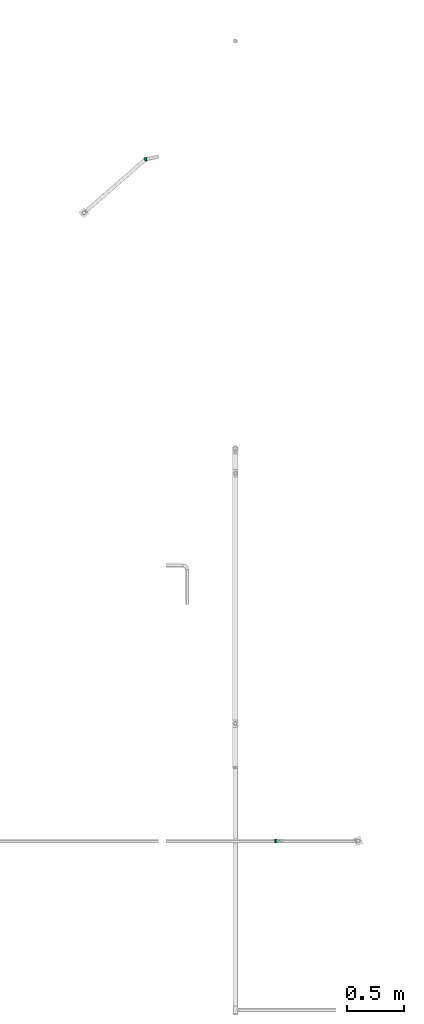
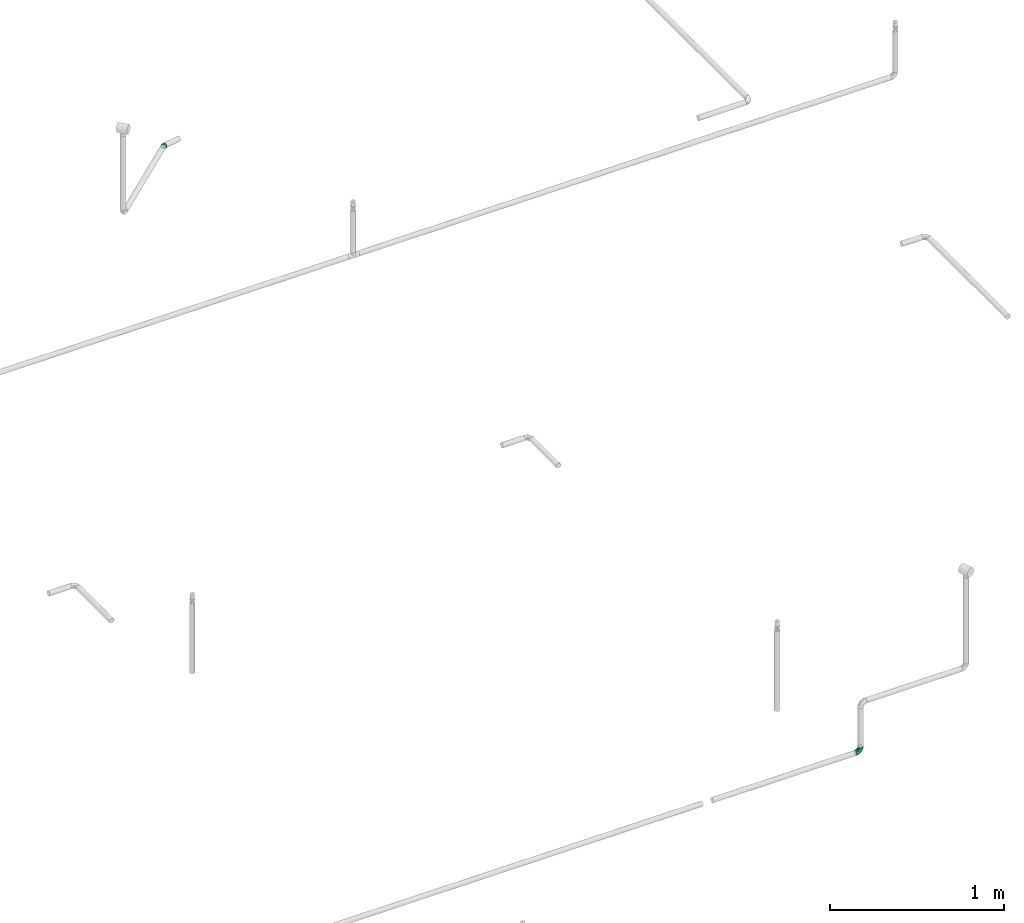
# One storey, part 62 of 63: 2 flow fittings.
"""IFC2X3 building model written with IfcOpenShell, lengths in millimetres."""

import ifcopenshell
import ifcopenshell.guid

model = None  # the IFC model being written
_history = None  # IfcOwnerHistory: only IFC2X3 demands one
_inside = {}  # id of a spatial element -> (the spatial element, [elements in it])
_under = {}  # id of a project, library or spatial element -> (it, [spatial elements below it])
_declared = {}  # id of a project -> (the project, [libraries it declares])
_typed = {}  # id of a type object -> (the type object, [elements of that type])
_made_of = {}  # id of a material, layer set ... -> (it, [elements and type objects made of it])


def new_model(schema):
    """Start an empty IFC model of exactly this schema.

    Asked for "IFC4X3", IfcOpenShell would pick the latest addendum, in which some entities
    have other attributes; the version numbers below select the first issue.
    IFC2X3 requires an IfcOwnerHistory on every rooted entity: one is made here for all.
    """
    global model, _history
    if schema == "IFC4X3":
        model = ifcopenshell.file(schema_version=(4, 3, 0, 0))
    else:
        model = ifcopenshell.file(schema=schema)
    _inside.clear()
    _under.clear()
    _declared.clear()
    _typed.clear()
    _made_of.clear()
    _history = None
    if model.schema == "IFC2X3":
        org = make("IfcOrganization", Name="unknown")
        user = make(
            "IfcPersonAndOrganization",
            ThePerson=make("IfcPerson", FamilyName="unknown"),
            TheOrganization=org,
        )
        app = make(
            "IfcApplication",
            ApplicationDeveloper=org,
            Version="unknown",
            ApplicationFullName="unknown",
            ApplicationIdentifier="unknown",
        )
        _history = make(
            "IfcOwnerHistory",
            OwningUser=user,
            OwningApplication=app,
            ChangeAction="ADDED",
            CreationDate=0,
        )
    return model


def make(cls, **values):
    """One entity of the class cls with the attributes given. An attribute that is None is left unset."""
    return model.create_entity(
        cls, **{name: value for name, value in values.items() if value is not None}
    )


def entity(cls, *values):
    """Any entity or typed value of the class cls, its attributes in the order of the schema. None: left unset."""
    e = model.create_entity(cls)
    for i, value in enumerate(values):
        if value is not None:
            e[i] = value
    return e


def rooted(cls, **values):
    """An entity with a GlobalId (a new one), such as an element, a storey or a relation."""
    return make(cls, GlobalId=ifcopenshell.guid.new(), OwnerHistory=_history, **values)


def si_unit(unit_type, name, prefix=None):
    """IfcSIUnit, for example si_unit("LENGTHUNIT", "METRE", prefix="MILLI")."""
    return make("IfcSIUnit", UnitType=unit_type, Prefix=prefix, Name=name)


def converted_unit(unit_type, name, factor, base, dimensions=None, offset=None):
    """IfcConversionBasedUnit, such as the inch: factor (a typed value) times the base unit."""
    return make(
        "IfcConversionBasedUnit"
        if offset is None
        else "IfcConversionBasedUnitWithOffset",
        ConversionOffset=offset,
        Dimensions=None
        if dimensions is None
        else entity("IfcDimensionalExponents", *dimensions),
        UnitType=unit_type,
        Name=name,
        ConversionFactor=make(
            "IfcMeasureWithUnit", ValueComponent=factor, UnitComponent=base
        ),
    )


def derived_unit(unit_type, elements):
    """IfcDerivedUnit: a product of units, each with its exponent."""
    return make(
        "IfcDerivedUnit",
        Elements=[
            make("IfcDerivedUnitElement", Unit=unit, Exponent=power)
            for unit, power in elements
        ],
        UnitType=unit_type,
    )


def assignment(units):
    """IfcUnitAssignment: the units of a project."""
    return None if units is None else make("IfcUnitAssignment", Units=units)


def point(xyz):
    """IfcCartesianPoint."""
    return None if xyz is None else make("IfcCartesianPoint", Coordinates=xyz)


def direction(xyz):
    """IfcDirection."""
    return None if xyz is None else make("IfcDirection", DirectionRatios=xyz)


def frame(location, z_axis=None, x_axis=None):
    """IfcAxis2Placement3D, a coordinate frame: its origin and axes. An axis left out is left unset."""
    return make(
        "IfcAxis2Placement3D",
        Location=point(location),
        Axis=direction(z_axis),
        RefDirection=direction(x_axis),
    )


def origin_with_axes():
    """The frame at (0, 0, 0) with the z axis (0, 0, 1) and the x axis (1, 0, 0) written out."""
    return frame((0.0, 0.0, 0.0), z_axis=(0.0, 0.0, 1.0), x_axis=(1.0, 0.0, 0.0))


def place(relative_to, where):
    """IfcLocalPlacement: puts the frame where relative to a parent placement (None: the world)."""
    return make(
        "IfcLocalPlacement", PlacementRelTo=relative_to, RelativePlacement=where
    )


def context(
    kind, dimensions, precision=None, world=None, true_north=None, identifier=None
):
    """IfcGeometricRepresentationContext, for example the 3D "Model" context."""
    return make(
        "IfcGeometricRepresentationContext",
        ContextIdentifier=identifier,
        ContextType=kind,
        CoordinateSpaceDimension=dimensions,
        Precision=precision,
        WorldCoordinateSystem=world,
        TrueNorth=true_north,
    )


def subcontext(parent, identifier, kind, view, scale=None):
    """IfcGeometricRepresentationSubContext, for example "Body" below "Model"."""
    return make(
        "IfcGeometricRepresentationSubContext",
        ContextIdentifier=identifier,
        ContextType=kind,
        ParentContext=parent,
        TargetScale=scale,
        TargetView=view,
    )


def project(units=None, contexts=None):
    """IfcProject with its units and contexts."""
    return rooted(
        "IfcProject",
        Name="project",
        RepresentationContexts=contexts,
        UnitsInContext=assignment(units),
    )


def spatial(cls, under=None, at=None, **own):
    """A site, building, storey or space (cls), placed at a placement, below another one or the project."""
    s = rooted(cls, ObjectPlacement=at, **own)
    if under is not None:
        _under.setdefault(under.id(), (under, []))[1].append(s)
    return s


def faces_of(points, faces, orient=None, outer=None):
    """IfcFace entities. A face is a list of loops; a loop is a list of indices into points, from 0.

    orient and outer hold one flag for each loop. By default every Orientation is true, the
    first loop of a face is its IfcFaceOuterBound and the others are IfcFaceBound.
    """
    made = []
    for i, loops in enumerate(faces):
        bounds = []
        for j, loop in enumerate(loops):
            is_outer = j == 0 if outer is None else outer[i][j]
            bounds.append(
                make(
                    "IfcFaceOuterBound" if is_outer else "IfcFaceBound",
                    Bound=make("IfcPolyLoop", Polygon=[points[k] for k in loop]),
                    Orientation=True if orient is None else orient[i][j],
                )
            )
        made.append(make("IfcFace", Bounds=bounds))
    return made


def open_shell(faces, orient=None, outer=None):
    """The faces of one IfcOpenShell. surface_model builds it on its shared points."""
    return ("IfcOpenShell", faces, orient, outer)


def surface_model(cls, points, shells):
    """IfcFaceBasedSurfaceModel or IfcShellBasedSurfaceModel (cls): surfaces that need not close."""
    shared = [point(p) for p in points]
    made = [make(c, CfsFaces=faces_of(shared, fs, o, b)) for c, fs, o, b in shells]
    if cls == "IfcFaceBasedSurfaceModel":
        return make(cls, FbsmFaces=made)
    return make(cls, SbsmBoundary=made)


def shape(context_of_items, identifier, shape_type, items):
    """IfcShapeRepresentation: the items that make up one representation, for example the "Body"."""
    return make(
        "IfcShapeRepresentation",
        ContextOfItems=context_of_items,
        RepresentationIdentifier=identifier,
        RepresentationType=shape_type,
        Items=items,
    )


def source(mapping_origin, context_of_items, identifier, shape_type, items):
    """IfcRepresentationMap: a shape defined once, which mapped items show again and again."""
    return make(
        "IfcRepresentationMap",
        MappingOrigin=mapping_origin,
        MappedRepresentation=shape(context_of_items, identifier, shape_type, items),
    )


def transform(
    local_origin,
    x_axis=None,
    y_axis=None,
    z_axis=None,
    scale=None,
    scale2=None,
    scale3=None,
    uniform=True,
):
    """IfcCartesianTransformationOperator3D, or its non-uniform kind. x_axis, y_axis, z_axis: its Axis1, 2, 3."""
    if uniform:
        return make(
            "IfcCartesianTransformationOperator3D",
            Axis1=direction(x_axis),
            Axis2=direction(y_axis),
            LocalOrigin=point(local_origin),
            Scale=scale,
            Axis3=direction(z_axis),
        )
    return make(
        "IfcCartesianTransformationOperator3DnonUniform",
        Axis1=direction(x_axis),
        Axis2=direction(y_axis),
        LocalOrigin=point(local_origin),
        Scale=scale,
        Axis3=direction(z_axis),
        Scale2=scale2,
        Scale3=scale3,
    )


def mapped(mapping_source, mapping_target):
    """IfcMappedItem: shows the shape of a source again, moved by a transform."""
    return make(
        "IfcMappedItem", MappingSource=mapping_source, MappingTarget=mapping_target
    )


def made_of(thing, what):
    """Note that an element or type object is made of a material, layer set ...; save() writes the relation."""
    if what is not None:
        _made_of.setdefault(what.id(), (what, []))[1].append(thing)
    return thing


def type_object(cls, material=None, **own):
    """A type object (cls), such as IfcWallType, which elements share."""
    return made_of(rooted(cls, **own), material)


def element(
    cls,
    number,
    at=None,
    inside=None,
    cuts=None,
    type_object=None,
    material=None,
    context=None,
    identifier="Body",
    shape_type=None,
    held_by="IfcProductDefinitionShape",
    body=None,
    shapes=None,
    **own,
):
    """One element of the class cls, such as IfcWall. Its Tag is "e" and its number.

    at: its placement. inside: the storey or other place that contains it. cuts: it is an
    opening in that element (IfcRelVoidsElement). A single representation is given by context,
    identifier, shape_type and body (its items); several are given by shapes. held_by: the class
    of the entity that holds the representations. save() writes the other relations.
    """
    e = rooted(cls, Tag="e%d" % number, ObjectPlacement=at, **own)
    if body is not None:
        shapes = [shape(context, identifier, shape_type, body)]
    if shapes is not None:
        e.Representation = make(held_by, Representations=shapes)
    if inside is not None:
        _inside.setdefault(inside.id(), (inside, []))[1].append(e)
    if cuts is not None:
        rooted(
            "IfcRelVoidsElement", RelatingBuildingElement=cuts, RelatedOpeningElement=e
        )
    if type_object is not None:
        _typed.setdefault(type_object.id(), (type_object, []))[1].append(e)
    return made_of(e, material)


def aggregate(whole, parts):
    """IfcRelAggregates: a whole, such as a stair, and the parts it consists of."""
    return rooted("IfcRelAggregates", RelatingObject=whole, RelatedObjects=parts)


def save(model, path):
    """Write the relations noted so far, then the file.

    IfcRelAggregates (storeys below a building ...), IfcRelContainedInSpatialStructure (elements
    in a storey), IfcRelDefinesByType, IfcRelAssociatesMaterial and IfcRelDeclares: one each for
    every whole, place, type object, material and project.
    """
    for whole, parts in _under.values():
        aggregate(whole, parts)
    for where, things in _inside.values():
        rooted(
            "IfcRelContainedInSpatialStructure",
            RelatedElements=things,
            RelatingStructure=where,
        )
    for kind, things in _typed.values():
        rooted("IfcRelDefinesByType", RelatedObjects=things, RelatingType=kind)
    for what, things in _made_of.values():
        rooted("IfcRelAssociatesMaterial", RelatedObjects=things, RelatingMaterial=what)
    for by, libraries in _declared.values():
        rooted("IfcRelDeclares", RelatingContext=by, RelatedDefinitions=libraries)
    model.write(path)


model = new_model("IFC2X3")

# Units and contexts
model_context = context("Model", 3, precision=0.01, world=frame((0.0, 4.29681676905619e-09, 0.0)), true_north=direction((4.01073788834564e-13, 1.0)))
plan_context = context("Plan", 3, precision=0.01, world=frame((0.0, 4.29681676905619e-09, 0.0)), true_north=direction((4.01073788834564e-13, 1.0)))
body_context = subcontext(model_context, "Body", "Model", "MODEL_VIEW")
ifc_project = project(units=[converted_unit("PLANEANGLEUNIT", "DEGREE", entity("IfcPositiveLengthMeasure", 0.0174532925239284), si_unit("PLANEANGLEUNIT", "RADIAN"), dimensions=[0, 0, 0, 0, 0, 0, 0]), si_unit("AREAUNIT", "SQUARE_METRE"), si_unit("LENGTHUNIT", "METRE", prefix="MILLI"), si_unit("MASSUNIT", "GRAM", prefix="KILO"), si_unit("POWERUNIT", "WATT"), si_unit("PRESSUREUNIT", "PASCAL", prefix="KILO"), si_unit("FORCEUNIT", "NEWTON", prefix="KILO"), si_unit("ELECTRICVOLTAGEUNIT", "VOLT"), si_unit("ELECTRICCURRENTUNIT", "AMPERE"), si_unit("THERMODYNAMICTEMPERATUREUNIT", "DEGREE_CELSIUS"), si_unit("TIMEUNIT", "SECOND"), si_unit("VOLUMEUNIT", "CUBIC_METRE"), derived_unit("LINEARVELOCITYUNIT", [(si_unit("LENGTHUNIT", "METRE"), 1), (si_unit("TIMEUNIT", "SECOND"), -1)]), derived_unit("VOLUMETRICFLOWRATEUNIT", [(si_unit("VOLUMEUNIT", "CUBIC_METRE"), 1), (si_unit("TIMEUNIT", "SECOND"), -1)]), derived_unit("THERMALTRANSMITTANCEUNIT", [(si_unit("POWERUNIT", "WATT"), 1), (si_unit("THERMODYNAMICTEMPERATUREUNIT", "KELVIN"), -1), (si_unit("AREAUNIT", "SQUARE_METRE"), -1)]), derived_unit("SOUNDPRESSUREUNIT", [(si_unit("PRESSUREUNIT", "PASCAL"), 1)])], contexts=[model_context, plan_context])

# Site, building, storey
site_placement = place(None, frame((0.0, -4.29681676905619e-09, 0.0), z_axis=(0.0, 0.0, 1.0), x_axis=(1.0, 0.0, 0.0)))
site = spatial("IfcSite", under=ifc_project, at=site_placement, CompositionType="ELEMENT")
building_placement = place(site_placement, frame((0.0, 4.29681676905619e-09, 0.0), z_axis=(0.0, 0.0, 1.0), x_axis=(1.0, 0.0, 0.0)))
building = spatial("IfcBuilding", under=site, at=building_placement, Name="mc-building", CompositionType="ELEMENT")
storey_placement = place(building_placement, frame((0.0, 0.0, 207370.0), z_axis=(0.0, 0.0, 1.0), x_axis=(1.0, 0.0, 0.0)))
storey = spatial("IfcBuildingStorey", under=building, at=storey_placement, Name="Nivå E", CompositionType="ELEMENT", Elevation=207370.0)

# Flow fittings
pipe_fitting_type = type_object("IfcPipeFittingType", Name="magi_pipe_fe_elbow_short_001", PredefinedType="BEND")
shared_shape_1 = source(origin_with_axes(), body_context, "Body", "SurfaceModel", [
    surface_model("IfcShellBasedSurfaceModel", [(-33.8004, 4.37404, -16.32415), (-33.8004, 0.0, -16.9), (-33.8004, 11.9501, -11.9501), (-33.8004, 8.45, -14.63583), (-33.8004, 16.32415, -4.37404), (-33.8004, 14.63583, -8.45), (-33.8004, -14.63583, -8.45), (-33.8004, -16.32415, -4.37404), (-33.8004, -8.45, 14.63583), (-33.8004, -11.9501, -11.9501), (-33.8004, -8.45, -14.63583), (-33.8004, -4.37404, -16.32415), (-33.8004, -16.9, 0.0), (-33.8004, -16.32415, 4.37404), (-33.8004, 11.9501, 11.9501), (-33.8004, 4.37404, 16.32415), (-33.8004, 8.45, 14.63583), (-33.8004, -14.63583, 8.45), (-33.8004, -11.9501, 11.9501), (-33.8004, -4.37404, 16.32415), (-33.8004, 0.0, 16.9), (-11.95051, 33.80026, -11.9501), (-4.37444, 33.80035, -16.32415), (-8.4504, 33.8003, -14.63583), (8.4496, 33.8005, -14.63583), (14.63543, 33.80057, -8.45), (11.9497, 33.80054, -11.9501), (4.37364, 33.80045, -16.32415), (-0.0004, 33.8004, -16.9), (16.32375, 33.80059, -4.37404), (16.32375, 33.80059, 4.37404), (16.8996, 33.8006, 0.0), (-11.95051, 33.80026, 11.9501), (-8.4504, 33.8003, 14.63583), (-4.37444, 33.80035, 16.32415), (8.4496, 33.8005, 14.63583), (-0.0004, 33.8004, 16.9), (4.37364, 33.80045, 16.32415), (-24.79431, -13.12946, 9.4872), (-22.19328, -9.75019, 12.59314), (-24.09931, -14.97032, 0.0), (-14.93978, -10.76258, 8.52969), (-22.46136, -14.75051, 5.27076), (14.75025, 22.46153, 5.27076), (11.92495, 13.23946, 4.33237), (13.04046, 14.39837, 0.0), (-24.84047, -6.39063, 15.2048), (-25.81812, -2.23879, 16.61096), (-23.66584, 2.59054, 16.87119), (-26.50456, 14.06512, 11.08153), (-24.21287, 17.66368, 7.72658), (-29.5855, 15.86958, 7.00284), (-6.17404, -7.54537, 0.0), (-13.23932, -11.92511, 4.33237), (-14.39821, -13.04064, 0.0), (9.74993, 22.19339, 12.59314), (11.9497, 33.80054, 11.9501), (-17.81459, 18.87388, 11.97105), (-6.30881, 29.15165, 15.82987), (-2.31651, 25.28036, 16.85849), (-29.23956, 10.23435, 13.77053), (-1.45476, -2.85693, 7.61462), (-0.28338, 0.34889, 10.09498), (-5.74508, -4.04703, 10.41213), (-33.8004, 14.63583, 8.45), (-14.63623, 33.80023, 8.45), (-16.32455, 33.80021, 4.37404), (-17.39941, 24.75356, 7.64979), (-26.19274, 20.05122, 0.0), (-33.8004, 16.9, 0.0), (-28.14556, 17.29658, 4.25856), (-33.8004, 16.32415, 4.37404), (-26.05186, 6.6281, 15.96447), (-5.87374, 16.61962, 16.86968), (-12.51832, 12.51817, 16.48938), (-10.06331, 7.38525, 16.81294), (-3.01901, 3.01897, 13.81715), (-13.05737, -4.10165, 14.04017), (-16.82581, -0.15163, 16.38037), (6.39034, 24.84055, 15.2048), (14.63543, 33.80057, 8.45), (2.23848, 25.81815, 16.61096), (13.12917, 24.79447, 9.4872), (-13.68885, -7.71387, 11.5589), (14.97003, 24.09949, 0.0), (-7.30923, 22.90013, 16.09489), (-10.67989, 26.17439, 14.00801), (-12.78326, 18.26937, 15.06065), (-13.8859, 22.45252, 12.93244), (-18.04975, 15.16508, 14.04434), (-23.11693, 20.08182, 4.02986), (-21.85023, 21.84997, 0.0), (-18.55854, 25.48283, 3.93066), (-13.95173, 26.94755, 11.03289), (-18.57129, 7.23911, 16.59756), (-16.58361, 4.14124, 16.89279), (-17.96691, 11.46718, 15.63152), (-9.84481, 17.5432, 16.18938), (0.15143, 16.82581, 16.38037), (-23.27236, 11.47204, 14.23156), (-8.39754, 3.10036, 15.78117), (-8.02159, -7.54416, 7.93269), (1.00323, -2.19501, 4.57387), (5.13163, 3.01016, 5.9022), (-16.9004, 33.8002, 0.0), (-20.05153, 26.1925, 0.0), (-1.72676, 9.13077, 15.53089), (-4.55534, -6.72072, 4.90671), (2.05013, -2.0501, 0.0), (-26.75434, 2.1369, -16.845), (-14.63623, 33.80023, -8.45), (-14.62027, 24.73816, -11.27738), (-28.45312, -13.45335, -9.81895), (-26.00507, 6.63555, -15.96645), (-23.06762, 20.04576, -4.26202), (-13.80669, -4.26494, -14.17874), (-14.67529, -0.21075, -16.07388), (-6.79029, -0.28267, -13.84773), (-24.53617, 11.08097, -14.13418), (-26.72085, 14.00838, -11.05777), (10.09642, 24.45039, -12.75975), (5.83211, 21.40261, -15.03046), (6.66216, 28.54284, -15.38093), (-20.38212, 15.48713, -12.74596), (-15.65216, 19.64223, -13.01329), (-12.03552, 20.66515, -14.67667), (-15.61933, 15.61915, -14.83881), (-25.56592, -15.26205, 0.0), (-24.6549, -15.12934, -5.50954), (12.53243, 21.23492, -9.15362), (13.45301, 28.45328, -9.81895), (15.12904, 24.65508, -5.50954), (-7.35485, -8.31016, -5.65564), (-15.67544, -12.54495, -5.54876), (-24.45027, -10.0967, -12.75975), (0.16518, 0.41335, -9.71723), (-5.70689, -5.33053, -8.89296), (-5.13856, -2.37161, -11.53561), (-21.23478, -12.53268, -9.15362), (-24.89949, -2.13089, -16.591), (-28.54276, -6.6625, -15.38093), (-18.44421, -7.71657, -13.26961), (2.13059, 24.89952, -16.591), (-28.64379, 17.44413, -2.8932), (1.70025, -1.28674, -5.09502), (-16.57102, 26.81958, -7.36598), (-17.69088, 27.42647, -3.76406), (-16.32455, 33.80021, -4.37404), (-12.89323, -9.75225, -8.66339), (-5.96631, 5.96624, -15.95812), (0.21057, 14.67529, -16.07388), (0.71131, 7.93892, -14.09381), (-20.53746, 20.09347, -8.28987), (-2.13721, 26.75431, -16.845), (-6.89901, 24.58809, -16.02578), (-10.6077, 26.53183, -13.98044), (-21.40254, -5.83237, -15.03046), (-3.99536, 18.61823, -16.89635), (-16.68588, 9.78041, -16.34201), (-27.01952, 16.6116, -7.12978), (15.26174, 25.5661, 0.0), (-9.13853, 9.86163, -16.89041), (-18.61827, 3.99514, -16.89635), (-19.37531, 27.82508, 0.0), (5.58049, 5.95375, -8.79458), (-12.61874, -6.89391, -11.82232), (9.75209, 12.89334, -8.66339), (8.31007, 7.35495, -5.65564), (-18.84733, 19.14029, -10.96546), (7.7137, 13.68895, 11.5589), (4.10149, 13.05743, 14.04017), (-4.41158, 11.31945, 16.59407), (10.7624, 14.93992, 8.52969), (3.84819, 5.87028, 10.70481), (5.24189, 1.75513, 2.53259), (8.70438, 7.05004, 3.99228), (8.48457, 8.76705, 7.09346), (7.54529, 6.17414, 0.0), (12.54476, 15.6756, -5.54876), (3.49271, 14.42809, -14.7638), (2.93174, 5.89661, -11.5592), (6.89376, 12.61883, -11.82232), (-10.00005, 16.02143, -16.39699)], [open_shell([[[0, 1, 2]], [[3, 0, 2]], [[4, 5, 2]], [[6, 2, 1]], [[2, 7, 8]], [[9, 6, 10]], [[1, 11, 10]], [[12, 13, 7]], [[4, 2, 14]], [[15, 16, 14]], [[15, 14, 8]], [[17, 18, 13]], [[19, 20, 8]], [[18, 8, 7]], [[8, 20, 15]], [[21, 22, 23]], [[24, 25, 26]], [[24, 27, 28]], [[29, 30, 31]], [[32, 33, 34]], [[35, 36, 37]], [[18, 38, 39]], [[13, 12, 40]], [[41, 38, 42]], [[43, 44, 45]], [[38, 18, 17]], [[13, 42, 17]], [[39, 8, 18]], [[39, 46, 8]], [[20, 47, 48]], [[49, 50, 51]], [[52, 53, 54]], [[55, 56, 35]], [[49, 57, 50]], [[34, 58, 59]], [[16, 60, 14]], [[19, 47, 20]], [[61, 62, 63]], [[14, 49, 64]], [[65, 66, 67]], [[68, 69, 70]], [[51, 71, 64]], [[20, 48, 15]], [[15, 72, 16]], [[73, 74, 75]], [[63, 76, 77]], [[46, 77, 78]], [[79, 35, 37]], [[80, 43, 30]], [[37, 36, 81]], [[80, 82, 43]], [[83, 77, 39]], [[82, 80, 56]], [[8, 46, 19]], [[43, 45, 84]], [[84, 30, 43]], [[53, 42, 54]], [[85, 73, 59]], [[86, 87, 85]], [[88, 89, 87]], [[68, 90, 91]], [[33, 32, 86]], [[92, 91, 90]], [[57, 67, 50]], [[34, 33, 58]], [[69, 71, 70]], [[86, 85, 58]], [[67, 92, 90]], [[32, 93, 86]], [[59, 36, 34]], [[88, 86, 93]], [[13, 40, 42]], [[79, 55, 35]], [[72, 15, 48]], [[94, 95, 75]], [[96, 72, 94]], [[32, 65, 93]], [[85, 87, 97]], [[85, 97, 73]], [[81, 59, 98]], [[60, 49, 14]], [[49, 99, 89]], [[77, 46, 39]], [[54, 42, 40]], [[47, 46, 78]], [[83, 39, 41]], [[77, 76, 100]], [[81, 79, 37]], [[31, 30, 84]], [[101, 63, 83]], [[61, 63, 101]], [[53, 41, 42]], [[61, 102, 103]], [[42, 38, 17]], [[39, 38, 41]], [[55, 82, 56]], [[94, 72, 48]], [[60, 72, 99]], [[71, 51, 70]], [[50, 67, 90]], [[104, 105, 92]], [[92, 105, 91]], [[65, 67, 93]], [[57, 93, 67]], [[88, 87, 86]], [[96, 89, 99]], [[94, 75, 74]], [[98, 59, 73]], [[100, 75, 78]], [[59, 81, 36]], [[79, 81, 98]], [[46, 47, 19]], [[48, 47, 78]], [[62, 76, 63]], [[94, 48, 95]], [[96, 94, 74]], [[87, 96, 74]], [[72, 96, 99]], [[87, 89, 96]], [[49, 89, 57]], [[48, 78, 95]], [[78, 75, 95]], [[77, 100, 78]], [[106, 100, 76]], [[72, 60, 16]], [[49, 60, 99]], [[86, 58, 33]], [[59, 58, 85]], [[49, 51, 64]], [[70, 50, 90]], [[50, 70, 51]], [[70, 90, 68]], [[53, 52, 107]], [[101, 53, 107]], [[108, 107, 52]], [[101, 83, 41]], [[63, 77, 83]], [[53, 101, 41]], [[61, 101, 107]], [[102, 61, 107]], [[107, 108, 102]], [[103, 62, 61]], [[67, 66, 92]], [[104, 92, 66]], [[93, 57, 88]], [[88, 57, 89]], [[87, 74, 97]], [[73, 97, 74]], [[0, 109, 1]], [[110, 21, 111]], [[9, 112, 6]], [[3, 113, 0]], [[91, 114, 68]], [[115, 116, 117]], [[118, 2, 119]], [[120, 121, 122]], [[118, 119, 123]], [[124, 125, 126]], [[118, 3, 2]], [[54, 127, 128]], [[129, 130, 131]], [[128, 7, 6]], [[132, 52, 133]], [[134, 9, 10]], [[135, 136, 137]], [[133, 128, 138]], [[139, 11, 1]], [[10, 140, 134]], [[138, 134, 141]], [[140, 10, 11]], [[27, 142, 28]], [[69, 68, 143]], [[136, 144, 132]], [[145, 146, 147]], [[133, 148, 132]], [[149, 150, 151]], [[147, 110, 145]], [[111, 152, 145]], [[24, 26, 120]], [[28, 153, 22]], [[22, 153, 154]], [[130, 26, 25]], [[21, 23, 155]], [[114, 146, 152]], [[142, 27, 122]], [[140, 139, 156]], [[113, 3, 118]], [[157, 142, 150]], [[22, 154, 23]], [[122, 27, 24]], [[130, 120, 26]], [[156, 139, 116]], [[123, 124, 126]], [[2, 5, 119]], [[25, 29, 131]], [[158, 113, 118]], [[143, 159, 4]], [[155, 23, 154]], [[124, 155, 125]], [[112, 128, 6]], [[127, 12, 7]], [[29, 31, 160]], [[150, 142, 121]], [[153, 142, 157]], [[150, 149, 161]], [[156, 115, 141]], [[112, 134, 138]], [[109, 139, 1]], [[162, 161, 116]], [[162, 116, 139]], [[116, 149, 117]], [[148, 133, 138]], [[127, 7, 128]], [[29, 160, 131]], [[45, 131, 160]], [[159, 119, 5]], [[118, 123, 126]], [[158, 118, 126]], [[109, 113, 162]], [[111, 145, 110]], [[146, 91, 163]], [[111, 21, 155]], [[146, 104, 147]], [[68, 114, 143]], [[114, 152, 159]], [[146, 114, 91]], [[117, 149, 151]], [[135, 164, 144]], [[136, 132, 148]], [[117, 165, 115]], [[119, 159, 152]], [[5, 4, 159]], [[144, 52, 132]], [[54, 128, 133]], [[113, 109, 0]], [[139, 109, 162]], [[142, 153, 28]], [[154, 153, 157]], [[157, 150, 161]], [[116, 161, 149]], [[158, 161, 162]], [[113, 158, 162]], [[138, 165, 148]], [[117, 137, 165]], [[165, 136, 148]], [[144, 136, 135]], [[164, 166, 167]], [[144, 164, 167]], [[152, 168, 119]], [[168, 111, 124]], [[165, 137, 136]], [[168, 124, 123]], [[155, 124, 111]], [[154, 125, 155]], [[119, 168, 123]], [[111, 168, 152]], [[146, 145, 152]], [[104, 146, 163]], [[159, 143, 114]], [[69, 143, 4]], [[120, 122, 24]], [[142, 122, 121]], [[131, 130, 25]], [[120, 130, 129]], [[139, 140, 11]], [[134, 140, 156]], [[134, 112, 9]], [[128, 112, 138]], [[54, 133, 52]], [[144, 108, 52]], [[141, 115, 165]], [[116, 115, 156]], [[138, 141, 165]], [[156, 141, 134]], [[1, 10, 6]], [[6, 7, 2]], [[14, 71, 4]], [[64, 71, 14]], [[2, 8, 14]], [[13, 18, 7]], [[69, 4, 71]], [[22, 24, 28]], [[21, 110, 147]], [[22, 21, 25]], [[147, 25, 21]], [[25, 24, 22]], [[25, 56, 29]], [[32, 25, 147]], [[147, 66, 32]], [[32, 66, 65]], [[34, 25, 32]], [[25, 34, 35]], [[29, 80, 30]], [[29, 56, 80]], [[25, 35, 56]], [[34, 36, 35]], [[66, 147, 104]], [[169, 55, 170]], [[171, 100, 106]], [[172, 82, 55]], [[44, 43, 172]], [[55, 79, 170]], [[98, 106, 170]], [[98, 170, 79]], [[170, 76, 173]], [[174, 175, 103]], [[169, 172, 55]], [[43, 82, 172]], [[73, 75, 171]], [[173, 103, 176]], [[170, 106, 76]], [[171, 106, 98]], [[73, 171, 98]], [[100, 171, 75]], [[103, 175, 176]], [[103, 102, 174]], [[177, 45, 44]], [[170, 173, 169]], [[176, 169, 173]], [[62, 103, 173]], [[174, 102, 108]], [[108, 177, 174]], [[175, 177, 44]], [[177, 175, 174]], [[176, 44, 172]], [[44, 176, 175]], [[176, 172, 169]], [[76, 62, 173]], [[129, 178, 166]], [[151, 150, 179]], [[131, 178, 129]], [[180, 181, 164]], [[166, 178, 167]], [[181, 121, 120]], [[157, 161, 182]], [[178, 45, 177]], [[182, 154, 157]], [[181, 120, 129]], [[179, 181, 151]], [[154, 182, 125]], [[166, 164, 181]], [[117, 151, 180]], [[131, 45, 178]], [[178, 177, 167]], [[158, 126, 182]], [[161, 158, 182]], [[181, 129, 166]], [[164, 135, 180]], [[180, 135, 137]], [[151, 181, 180]], [[180, 137, 117]], [[182, 126, 125]], [[150, 121, 179]], [[144, 177, 108]], [[181, 179, 121]], [[177, 144, 167]]])]),
])
flow_fitting_1_placement = place(storey_placement, frame((720020.0, 436180.95076, 6105.39999999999), z_axis=(0.0, -1.0, 0.0), x_axis=(0.9999999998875, 0.0, -1.49999999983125e-05)))
element("IfcFlowFitting", 1, at=flow_fitting_1_placement, inside=storey, type_object=pipe_fitting_type, Name="magi_pipe_fe_elbow_short_001", context=body_context, shape_type="MappedRepresentation", body=[
    mapped(shared_shape_1, transform((0.0, 0.0, 0.0), scale=1.0)),
])
shared_shape_2 = source(origin_with_axes(), body_context, "Body", "SurfaceModel", [
    surface_model("IfcShellBasedSurfaceModel", [(-9.12562, 4.37404, -16.32415), (-9.12562, 0.0, -16.9), (-9.12562, 11.9501, -11.9501), (-9.12562, 8.45, -14.63583), (-9.12562, 16.32415, -4.37404), (-9.12562, 14.63583, -8.45), (-9.12562, -14.63583, -8.45), (-9.12562, -16.32415, -4.37404), (-9.12562, -8.45, 14.63583), (-9.12562, -11.9501, -11.9501), (-9.12562, -8.45, -14.63583), (-9.12562, -4.37404, -16.32415), (-9.12562, -16.9, 0.0), (-9.12562, -16.32415, 4.37404), (-9.12562, 11.9501, 11.9501), (-9.12562, 16.32415, 4.37404), (-9.12562, 14.63583, 8.45), (-9.12562, 4.37404, 16.32415), (-9.12562, 8.45, 14.63583), (-9.12562, -14.63583, 8.45), (-9.12562, -11.9501, 11.9501), (-9.12562, -4.37404, 16.32415), (-9.12562, 0.0, 16.9), (-9.12562, 16.9, 0.0), (5.68419, 8.37253, -16.32415), (16.1014, -9.51313, 4.37404), (7.88561, 4.59284, -16.9), (1.87123, 14.91913, -11.9501), (3.6328, 11.89463, -14.63583), (10.08702, 0.81316, -16.32415), (0.51953, 17.23991, -8.45), (13.89999, -5.73345, -11.9501), (12.13842, -2.70895, -14.63583), (15.25169, -8.05423, -8.45), (16.1014, -9.51313, -4.37404), (16.39122, -10.01073, 0.0), (-0.33019, 18.69882, -4.37404), (-0.62001, 19.19642, 0.0), (-0.33019, 18.69882, 4.37404), (0.51953, 17.23991, 8.45), (1.87123, 14.91913, 11.9501), (3.6328, 11.89463, 14.63583), (5.68419, 8.37253, 16.32415), (13.89999, -5.73345, 11.9501), (12.13842, -2.70895, 14.63583), (15.25169, -8.05423, 8.45), (7.88561, 4.59284, 16.9), (10.08702, 0.81316, 16.32415), (-3.79644, -13.23106, 10.12395), (-0.54003, -9.71153, 13.20216), (1.47111, -5.44877, 15.44769), (9.93964, -9.52247, 10.12395), (-1.22656, -1.657, 16.71012), (-0.29766, -14.9508, 6.1439), (0.1088, -15.75941, 3.10455), (6.45391, -14.13974, 3.12937), (-0.79767, 2.95445, 16.79844), (3.25456, -12.05443, 9.90058), (-3.76777, 13.95528, 10.49701), (-2.93545, 10.87249, 13.58588), (7.23758, -7.35517, 13.25119), (-1.84196, 7.14451, 15.7345), (-4.72054, 17.4842, 0.0), (-4.36151, 16.15442, 6.68273), (4.08963, -15.14739, 0.0), (8.61627, -13.25725, 0.0), (-0.77322, -15.7923, 0.0), (8.59967, -12.4508, 6.17615), (0.36006, -1.33361, -16.70011), (0.01886, 3.22478, -16.79437), (3.70634, -4.68589, -15.48529), (-3.76777, 13.95528, -10.49701), (2.99354, -14.28777, -6.0201), (-3.03106, -15.71521, -5.17283), (-1.77024, -13.0047, -10.06068), (-2.93545, 10.87249, -13.58589), (8.7799, -13.19624, -3.69242), (-4.36151, 16.15442, -6.68273), (6.74051, -10.87864, -10.01592), (-1.95859, -7.66981, -14.7301), (2.45869, -9.10664, -13.12774), (-1.92208, 7.11909, -15.73589), (1.5491, -15.4897, -2.99569), (-2.49437, -4.75722, -16.03971), (9.60306, -11.70682, -6.93821)], [open_shell([[[0, 1, 2]], [[3, 0, 2]], [[4, 5, 2]], [[6, 2, 1]], [[2, 7, 8]], [[9, 6, 10]], [[1, 11, 10]], [[1, 10, 6]], [[6, 7, 2]], [[12, 13, 7]], [[4, 2, 14]], [[14, 15, 4]], [[16, 15, 14]], [[17, 18, 14]], [[2, 8, 14]], [[17, 14, 8]], [[19, 20, 13]], [[13, 20, 7]], [[21, 22, 8]], [[20, 8, 7]], [[8, 22, 17]], [[23, 4, 15]], [[24, 25, 26]], [[27, 24, 28]], [[29, 26, 25]], [[30, 24, 27]], [[24, 30, 25]], [[29, 31, 32]], [[31, 29, 33]], [[34, 25, 35]], [[25, 33, 29]], [[34, 33, 25]], [[36, 25, 30]], [[37, 38, 39]], [[37, 39, 40]], [[40, 41, 42]], [[37, 40, 43]], [[44, 40, 42]], [[37, 43, 45]], [[45, 25, 37]], [[44, 46, 47]], [[44, 43, 40]], [[44, 42, 46]], [[37, 25, 36]], [[19, 48, 20]], [[49, 50, 8]], [[8, 20, 49]], [[45, 43, 51]], [[22, 21, 52]], [[21, 8, 50]], [[53, 54, 55]], [[52, 56, 22]], [[22, 56, 17]], [[46, 42, 56]], [[48, 53, 57]], [[44, 47, 50]], [[14, 58, 16]], [[59, 14, 18]], [[57, 51, 60]], [[48, 49, 20]], [[17, 61, 18]], [[62, 15, 38]], [[19, 13, 53]], [[62, 23, 15]], [[15, 16, 63]], [[21, 50, 52]], [[17, 56, 61]], [[59, 61, 41]], [[54, 64, 55]], [[65, 55, 64]], [[52, 46, 56]], [[44, 60, 43]], [[12, 66, 54]], [[52, 47, 46]], [[57, 60, 49]], [[53, 67, 57]], [[40, 39, 58]], [[49, 60, 50]], [[50, 60, 44]], [[35, 25, 65]], [[15, 63, 38]], [[59, 58, 14]], [[39, 38, 63]], [[37, 62, 38]], [[55, 25, 67]], [[67, 45, 51]], [[25, 55, 65]], [[42, 61, 56]], [[41, 40, 59]], [[40, 58, 59]], [[12, 54, 13]], [[58, 39, 63]], [[42, 41, 61]], [[61, 59, 18]], [[53, 55, 67]], [[45, 67, 25]], [[58, 63, 16]], [[47, 52, 50]], [[53, 48, 19]], [[49, 48, 57]], [[60, 51, 43]], [[67, 51, 57]], [[13, 54, 53]], [[64, 54, 66]], [[1, 68, 11]], [[24, 26, 69]], [[29, 32, 70]], [[69, 1, 0]], [[71, 2, 5]], [[72, 73, 74]], [[2, 71, 75]], [[35, 65, 76]], [[77, 4, 36]], [[31, 33, 78]], [[79, 70, 80]], [[3, 81, 0]], [[82, 73, 72]], [[6, 73, 7]], [[66, 73, 82]], [[74, 73, 6]], [[9, 10, 79]], [[1, 69, 68]], [[73, 66, 7]], [[6, 9, 74]], [[10, 83, 79]], [[81, 75, 28]], [[75, 71, 27]], [[80, 74, 9]], [[4, 23, 62]], [[35, 76, 34]], [[62, 37, 36]], [[71, 5, 77]], [[84, 78, 33]], [[36, 30, 77]], [[71, 30, 27]], [[74, 80, 78]], [[28, 24, 81]], [[83, 70, 79]], [[0, 81, 69]], [[2, 75, 3]], [[81, 3, 75]], [[81, 24, 69]], [[29, 70, 68]], [[32, 80, 70]], [[26, 68, 69]], [[80, 32, 31]], [[76, 82, 72]], [[72, 74, 78]], [[82, 76, 64]], [[66, 12, 7]], [[76, 84, 34]], [[31, 78, 80]], [[27, 28, 75]], [[29, 68, 26]], [[76, 65, 64]], [[4, 62, 36]], [[84, 76, 72]], [[66, 82, 64]], [[78, 84, 72]], [[34, 84, 33]], [[71, 77, 30]], [[4, 77, 5]], [[9, 79, 80]], [[83, 10, 11]], [[11, 68, 83]], [[68, 70, 83]]])]),
])
flow_fitting_2_placement = place(storey_placement, frame((718852.98994, 442172.7041, 7130.0), z_axis=(0.0, 0.0, 1.0), x_axis=(-0.982346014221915, -0.187073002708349, 0.0)))
element("IfcFlowFitting", 2, at=flow_fitting_2_placement, inside=storey, type_object=pipe_fitting_type, Name="magi_pipe_fe_elbow_short_001", context=body_context, shape_type="MappedRepresentation", body=[
    mapped(shared_shape_2, transform((0.0, 0.0, 0.0), scale=1.0)),
])

save(model, "model.ifc")
